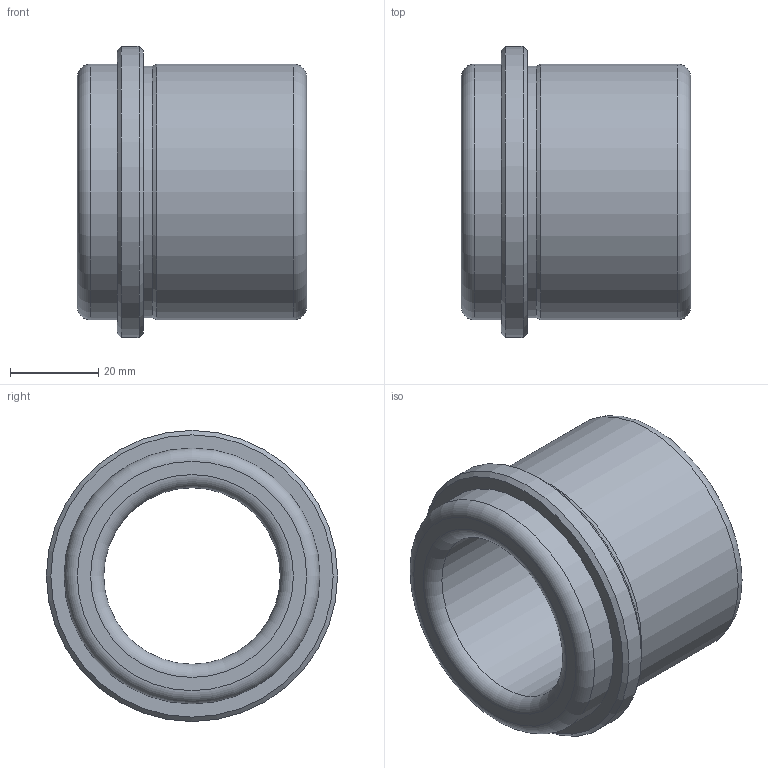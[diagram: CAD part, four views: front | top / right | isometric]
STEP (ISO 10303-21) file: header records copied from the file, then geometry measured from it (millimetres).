
FILE_DESCRIPTION(/* description */ ('Impex Ready, www.impex-ready.pl'),/* implementation_level */ '2;1');
FILE_NAME(/* name */ 'C:\Users\VIKKY\Nextcloud\SM\projekt 10 - części na stronę internetową\Pliki_3D_new\280 Tuleje BEAG\280_Tuleje_BEAG_STEP\BEAG40-7.ipt.step',/* time_stamp */ '2021-12-17T12:44:50+01:00',/* author */ ('SM'),/* organization */ (''),/* preprocessor_version */ 'ST-DEVELOPER v18.1',/* originating_system */ 'Autodesk Inventor 2021',/* authorisation */ '');
FILE_SCHEMA (('AUTOMOTIVE_DESIGN { 1 0 10303 214 3 1 1 }'));
Length unit declared in the file: millimetre
Products named in the file (1): BEAG40-7
Bounding box: 52 x 66 x 66 mm (x, y, z)
Volume: 75097.2 mm3; surface area: 19554.9 mm2
Topology: 1 solids, 1 shells, 16 faces, 32 edges, 20 vertices
Faces by surface type: cylinder 5, torus 4, plane 4, cone 3
Full cylindrical faces by diameter (mm): 40 x1, 57 x1, 58 x2, 66 x1
Entity records: 507 total; most frequent: DIRECTION 90, CARTESIAN_POINT 69, ORIENTED_EDGE 64, AXIS2_PLACEMENT_3D 41, EDGE_CURVE 32, CIRCLE 24, EDGE_LOOP 20, VERTEX_POINT 20
